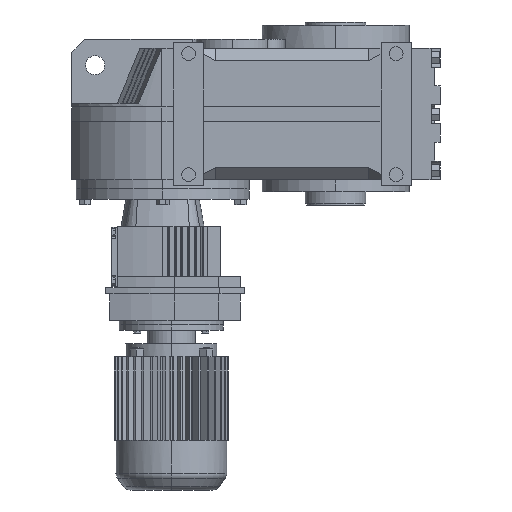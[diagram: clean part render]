
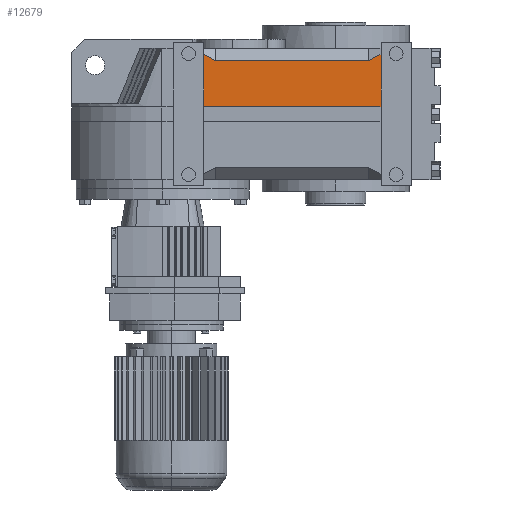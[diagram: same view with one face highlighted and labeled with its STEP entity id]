
A CAD part, left-side view. The second image highlights one B-rep face of the part: STEP entity #12679.
In plain terms, the highlighted planar face has unit normal (-1, 0, 0).
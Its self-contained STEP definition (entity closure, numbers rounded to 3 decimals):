
#182 = PLANE('',#183);
#183 = AXIS2_PLACEMENT_3D('',#184,#185,#186);
#184 = CARTESIAN_POINT('',(-102.4,-252.5,4.));
#185 = DIRECTION('',(0.,1.,0.));
#186 = DIRECTION('',(-1.,0.,0.));
#294 = PLANE('',#295);
#295 = AXIS2_PLACEMENT_3D('',#296,#297,#298);
#296 = CARTESIAN_POINT('',(-102.4,-47.5,4.));
#297 = DIRECTION('',(0.,-1.,0.));
#298 = DIRECTION('',(0.,0.,-1.));
#3464 = VERTEX_POINT('',#3465);
#3465 = CARTESIAN_POINT('',(-128.4,-252.5,155.606));
#3479 = PLANE('',#3480);
#3480 = AXIS2_PLACEMENT_3D('',#3481,#3482,#3483);
#3481 = CARTESIAN_POINT('',(-191.203,-252.5,92.803));
#3482 = DIRECTION('',(-0.664,0.342,0.664));
#3483 = DIRECTION('',(0.707,0.,0.707
    ));
#3491 = EDGE_CURVE('',#3492,#3464,#3494,.T.);
#3492 = VERTEX_POINT('',#3493);
#3493 = CARTESIAN_POINT('',(-128.4,-252.5,94.75));
#3494 = SURFACE_CURVE('',#3495,(#3499,#3506),.PCURVE_S1.);
#3495 = LINE('',#3496,#3497);
#3496 = CARTESIAN_POINT('',(-128.4,-252.5,162.4));
#3497 = VECTOR('',#3498,1.);
#3498 = DIRECTION('',(0.,0.,1.));
#3499 = PCURVE('',#182,#3500);
#3500 = DEFINITIONAL_REPRESENTATION('',(#3501),#3505);
#3501 = LINE('',#3502,#3503);
#3502 = CARTESIAN_POINT('',(26.,158.4));
#3503 = VECTOR('',#3504,1.);
#3504 = DIRECTION('',(0.,1.));
#3505 = ( GEOMETRIC_REPRESENTATION_CONTEXT(2) 
PARAMETRIC_REPRESENTATION_CONTEXT() REPRESENTATION_CONTEXT('2D SPACE',''
  ) );
#3506 = PCURVE('',#3507,#3512);
#3507 = PLANE('',#3508);
#3508 = AXIS2_PLACEMENT_3D('',#3509,#3510,#3511);
#3509 = CARTESIAN_POINT('',(-128.4,-321.,162.4));
#3510 = DIRECTION('',(1.,0.,0.));
#3511 = DIRECTION('',(0.,0.,-1.));
#3512 = DEFINITIONAL_REPRESENTATION('',(#3513),#3517);
#3513 = LINE('',#3514,#3515);
#3514 = CARTESIAN_POINT('',(0.,68.5));
#3515 = VECTOR('',#3516,1.);
#3516 = DIRECTION('',(-1.,0.));
#3517 = ( GEOMETRIC_REPRESENTATION_CONTEXT(2) 
PARAMETRIC_REPRESENTATION_CONTEXT() REPRESENTATION_CONTEXT('2D SPACE',''
  ) );
#3535 = PLANE('',#3536);
#3536 = AXIS2_PLACEMENT_3D('',#3537,#3538,#3539);
#3537 = CARTESIAN_POINT('',(-14.634,1.,94.75));
#3538 = DIRECTION('',(0.,0.,-1.));
#3539 = DIRECTION('',(-1.,0.,0.));
#4361 = VERTEX_POINT('',#4362);
#4362 = CARTESIAN_POINT('',(-128.4,-47.5,94.75));
#4383 = EDGE_CURVE('',#4384,#4361,#4386,.T.);
#4384 = VERTEX_POINT('',#4385);
#4385 = CARTESIAN_POINT('',(-128.4,-47.5,155.606));
#4386 = SURFACE_CURVE('',#4387,(#4391,#4398),.PCURVE_S1.);
#4387 = LINE('',#4388,#4389);
#4388 = CARTESIAN_POINT('',(-128.4,-47.5,162.4));
#4389 = VECTOR('',#4390,1.);
#4390 = DIRECTION('',(0.,0.,-1.));
#4391 = PCURVE('',#294,#4392);
#4392 = DEFINITIONAL_REPRESENTATION('',(#4393),#4397);
#4393 = LINE('',#4394,#4395);
#4394 = CARTESIAN_POINT('',(-158.4,-26.));
#4395 = VECTOR('',#4396,1.);
#4396 = DIRECTION('',(1.,0.));
#4397 = ( GEOMETRIC_REPRESENTATION_CONTEXT(2) 
PARAMETRIC_REPRESENTATION_CONTEXT() REPRESENTATION_CONTEXT('2D SPACE',''
  ) );
#4398 = PCURVE('',#3507,#4399);
#4399 = DEFINITIONAL_REPRESENTATION('',(#4400),#4404);
#4400 = LINE('',#4401,#4402);
#4401 = CARTESIAN_POINT('',(0.,273.5));
#4402 = VECTOR('',#4403,1.);
#4403 = DIRECTION('',(1.,0.));
#4404 = ( GEOMETRIC_REPRESENTATION_CONTEXT(2) 
PARAMETRIC_REPRESENTATION_CONTEXT() REPRESENTATION_CONTEXT('2D SPACE',''
  ) );
#4422 = PLANE('',#4423);
#4423 = AXIS2_PLACEMENT_3D('',#4424,#4425,#4426);
#4424 = CARTESIAN_POINT('',(-191.203,-47.5,92.803));
#4425 = DIRECTION('',(-0.664,-0.342,0.664));
#4426 = DIRECTION('',(0.707,0.,0.707
    ));
#7132 = PLANE('',#7133);
#7133 = AXIS2_PLACEMENT_3D('',#7134,#7135,#7136);
#7134 = CARTESIAN_POINT('',(-114.4,1.,162.4));
#7135 = DIRECTION('',(-0.707,0.,0.707));
#7136 = DIRECTION('',(0.707,0.,0.707));
#12609 = VERTEX_POINT('',#12610);
#12610 = CARTESIAN_POINT('',(-128.4,-238.5,148.4));
#12631 = EDGE_CURVE('',#3464,#12609,#12632,.T.);
#12632 = SURFACE_CURVE('',#12633,(#12637,#12644),.PCURVE_S1.);
#12633 = LINE('',#12634,#12635);
#12634 = CARTESIAN_POINT('',(-128.4,-309.417,184.903));
#12635 = VECTOR('',#12636,1.);
#12636 = DIRECTION('',(0.,0.889,-0.458));
#12637 = PCURVE('',#3479,#12638);
#12638 = DEFINITIONAL_REPRESENTATION('',(#12639),#12643);
#12639 = LINE('',#12640,#12641);
#12640 = CARTESIAN_POINT('',(109.533,-60.57));
#12641 = VECTOR('',#12642,1.);
#12642 = DIRECTION('',(-0.324,0.946));
#12643 = ( GEOMETRIC_REPRESENTATION_CONTEXT(2) 
PARAMETRIC_REPRESENTATION_CONTEXT() REPRESENTATION_CONTEXT('2D SPACE',''
  ) );
#12644 = PCURVE('',#3507,#12645);
#12645 = DEFINITIONAL_REPRESENTATION('',(#12646),#12650);
#12646 = LINE('',#12647,#12648);
#12647 = CARTESIAN_POINT('',(-22.503,11.583));
#12648 = VECTOR('',#12649,1.);
#12649 = DIRECTION('',(0.458,0.889));
#12650 = ( GEOMETRIC_REPRESENTATION_CONTEXT(2) 
PARAMETRIC_REPRESENTATION_CONTEXT() REPRESENTATION_CONTEXT('2D SPACE',''
  ) );
#12679 = ADVANCED_FACE('',(#12680),#3507,.F.);
#12680 = FACE_BOUND('',#12681,.T.);
#12681 = EDGE_LOOP('',(#12682,#12683,#12684,#12707,#12728,#12729));
#12682 = ORIENTED_EDGE('',*,*,#3491,.T.);
#12683 = ORIENTED_EDGE('',*,*,#12631,.T.);
#12684 = ORIENTED_EDGE('',*,*,#12685,.T.);
#12685 = EDGE_CURVE('',#12609,#12686,#12688,.T.);
#12686 = VERTEX_POINT('',#12687);
#12687 = CARTESIAN_POINT('',(-128.4,-61.5,148.4));
#12688 = SURFACE_CURVE('',#12689,(#12693,#12700),.PCURVE_S1.);
#12689 = LINE('',#12690,#12691);
#12690 = CARTESIAN_POINT('',(-128.4,-47.5,148.4));
#12691 = VECTOR('',#12692,1.);
#12692 = DIRECTION('',(0.,1.,0.));
#12693 = PCURVE('',#3507,#12694);
#12694 = DEFINITIONAL_REPRESENTATION('',(#12695),#12699);
#12695 = LINE('',#12696,#12697);
#12696 = CARTESIAN_POINT('',(14.,273.5));
#12697 = VECTOR('',#12698,1.);
#12698 = DIRECTION('',(0.,1.));
#12699 = ( GEOMETRIC_REPRESENTATION_CONTEXT(2) 
PARAMETRIC_REPRESENTATION_CONTEXT() REPRESENTATION_CONTEXT('2D SPACE',''
  ) );
#12700 = PCURVE('',#7132,#12701);
#12701 = DEFINITIONAL_REPRESENTATION('',(#12702),#12706);
#12702 = LINE('',#12703,#12704);
#12703 = CARTESIAN_POINT('',(-19.799,-48.5));
#12704 = VECTOR('',#12705,1.);
#12705 = DIRECTION('',(0.,1.));
#12706 = ( GEOMETRIC_REPRESENTATION_CONTEXT(2) 
PARAMETRIC_REPRESENTATION_CONTEXT() REPRESENTATION_CONTEXT('2D SPACE',''
  ) );
#12707 = ORIENTED_EDGE('',*,*,#12708,.T.);
#12708 = EDGE_CURVE('',#12686,#4384,#12709,.T.);
#12709 = SURFACE_CURVE('',#12710,(#12714,#12721),.PCURVE_S1.);
#12710 = LINE('',#12711,#12712);
#12711 = CARTESIAN_POINT('',(-128.4,-260.95,45.737));
#12712 = VECTOR('',#12713,1.);
#12713 = DIRECTION('',(0.,0.889,0.458));
#12714 = PCURVE('',#3507,#12715);
#12715 = DEFINITIONAL_REPRESENTATION('',(#12716),#12720);
#12716 = LINE('',#12717,#12718);
#12717 = CARTESIAN_POINT('',(116.663,60.05));
#12718 = VECTOR('',#12719,1.);
#12719 = DIRECTION('',(-0.458,0.889));
#12720 = ( GEOMETRIC_REPRESENTATION_CONTEXT(2) 
PARAMETRIC_REPRESENTATION_CONTEXT() REPRESENTATION_CONTEXT('2D SPACE',''
  ) );
#12721 = PCURVE('',#4422,#12722);
#12722 = DEFINITIONAL_REPRESENTATION('',(#12723),#12727);
#12723 = LINE('',#12724,#12725);
#12724 = CARTESIAN_POINT('',(11.128,-227.149));
#12725 = VECTOR('',#12726,1.);
#12726 = DIRECTION('',(0.324,0.946));
#12727 = ( GEOMETRIC_REPRESENTATION_CONTEXT(2) 
PARAMETRIC_REPRESENTATION_CONTEXT() REPRESENTATION_CONTEXT('2D SPACE',''
  ) );
#12728 = ORIENTED_EDGE('',*,*,#4383,.T.);
#12729 = ORIENTED_EDGE('',*,*,#12730,.F.);
#12730 = EDGE_CURVE('',#3492,#4361,#12731,.T.);
#12731 = SURFACE_CURVE('',#12732,(#12736,#12743),.PCURVE_S1.);
#12732 = LINE('',#12733,#12734);
#12733 = CARTESIAN_POINT('',(-128.4,-321.,94.75));
#12734 = VECTOR('',#12735,1.);
#12735 = DIRECTION('',(0.,1.,0.));
#12736 = PCURVE('',#3507,#12737);
#12737 = DEFINITIONAL_REPRESENTATION('',(#12738),#12742);
#12738 = LINE('',#12739,#12740);
#12739 = CARTESIAN_POINT('',(67.65,0.));
#12740 = VECTOR('',#12741,1.);
#12741 = DIRECTION('',(0.,1.));
#12742 = ( GEOMETRIC_REPRESENTATION_CONTEXT(2) 
PARAMETRIC_REPRESENTATION_CONTEXT() REPRESENTATION_CONTEXT('2D SPACE',''
  ) );
#12743 = PCURVE('',#3535,#12744);
#12744 = DEFINITIONAL_REPRESENTATION('',(#12745),#12749);
#12745 = LINE('',#12746,#12747);
#12746 = CARTESIAN_POINT('',(113.766,-322.));
#12747 = VECTOR('',#12748,1.);
#12748 = DIRECTION('',(0.,1.));
#12749 = ( GEOMETRIC_REPRESENTATION_CONTEXT(2) 
PARAMETRIC_REPRESENTATION_CONTEXT() REPRESENTATION_CONTEXT('2D SPACE',''
  ) );
